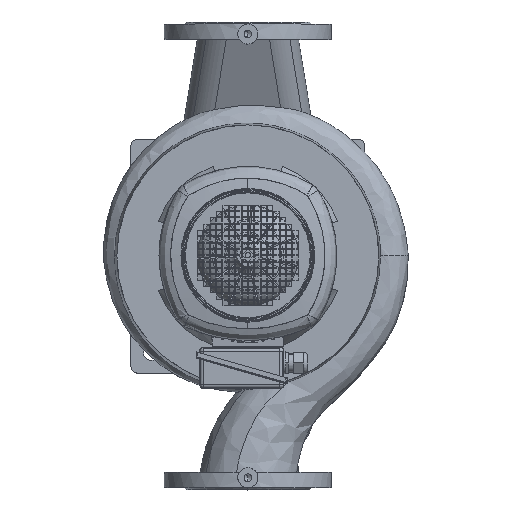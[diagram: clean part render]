
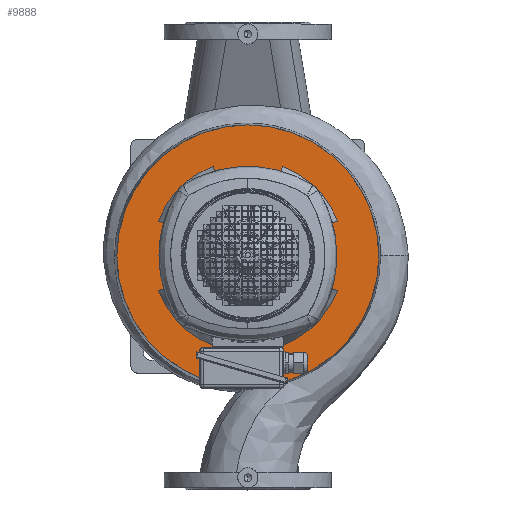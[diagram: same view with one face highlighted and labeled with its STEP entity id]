
A CAD part, top view. The second image highlights one B-rep face of the part: STEP entity #9888.
In plain terms, the highlighted planar face has unit normal (0, 0, 1) as drawn and (1, 0, 0) by its records, which use the part's own axes.
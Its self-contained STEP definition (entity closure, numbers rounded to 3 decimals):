
#9888=ADVANCED_FACE('',(#20159,#20160),#20161,.T.);
#9912=EDGE_CURVE('',#20200,#20201,#20202,.T.);
#9936=EDGE_CURVE('',#20244,#20245,#20246,.T.);
#9944=EDGE_CURVE('',#20254,#20257,#20258,.T.);
#9952=EDGE_CURVE('',#20266,#20269,#20270,.T.);
#9958=EDGE_CURVE('',#20273,#20245,#20278,.T.);
#9960=EDGE_CURVE('',#20280,#20257,#20281,.T.);
#9968=EDGE_CURVE('',#20292,#20288,#20293,.T.);
#9976=EDGE_CURVE('',#20303,#20299,#20304,.T.);
#9984=EDGE_CURVE('',#20310,#20313,#20314,.T.);
#9994=EDGE_CURVE('',#20324,#20254,#20327,.T.);
#10000=EDGE_CURVE('',#20332,#20266,#20335,.T.);
#10008=EDGE_CURVE('',#20343,#20338,#20346,.T.);
#10010=EDGE_CURVE('',#20269,#20288,#20348,.T.);
#10014=EDGE_CURVE('',#20338,#20299,#20352,.T.);
#10018=EDGE_CURVE('',#20313,#20244,#20356,.T.);
#10022=EDGE_CURVE('',#20280,#20332,#20360,.T.);
#10026=EDGE_CURVE('',#20292,#20343,#20364,.T.);
#10028=EDGE_CURVE('',#20273,#20324,#20366,.T.);
#10032=EDGE_CURVE('',#20201,#20200,#20370,.T.);
#10034=EDGE_CURVE('',#20303,#20310,#20372,.T.);
#20159=FACE_OUTER_BOUND('',#47073,.T.);
#20160=FACE_BOUND('',#47074,.T.);
#20161=PLANE('',#47075);
#20200=VERTEX_POINT('',#47116);
#20201=VERTEX_POINT('',#47117);
#20202=CIRCLE('',#47118,196.0);
#20244=VERTEX_POINT('',#47172);
#20245=VERTEX_POINT('',#47173);
#20246=CIRCLE('',#47174,132.799);
#20254=VERTEX_POINT('',#47194);
#20257=VERTEX_POINT('',#47207);
#20258=CIRCLE('',#47208,132.799);
#20266=VERTEX_POINT('',#47228);
#20269=VERTEX_POINT('',#47241);
#20270=CIRCLE('',#47242,132.799);
#20273=VERTEX_POINT('',#47246);
#20278=LINE('',#47263,#47264);
#20280=VERTEX_POINT('',#47267);
#20281=LINE('',#47268,#47269);
#20288=VERTEX_POINT('',#47289);
#20292=VERTEX_POINT('',#47303);
#20293=LINE('',#47304,#47305);
#20299=VERTEX_POINT('',#47324);
#20303=VERTEX_POINT('',#47338);
#20304=LINE('',#47339,#47340);
#20310=VERTEX_POINT('',#47359);
#20313=VERTEX_POINT('',#47372);
#20314=LINE('',#47373,#47374);
#20324=VERTEX_POINT('',#47399);
#20327=LINE('',#47412,#47413);
#20332=VERTEX_POINT('',#47421);
#20335=LINE('',#47434,#47435);
#20338=VERTEX_POINT('',#47439);
#20343=VERTEX_POINT('',#47456);
#20346=LINE('',#47469,#47470);
#20348=CIRCLE('',#47473,132.799);
#20352=CIRCLE('',#47479,132.799);
#20356=CIRCLE('',#47485,132.799);
#20360=CIRCLE('',#47491,144.0);
#20364=CIRCLE('',#47497,144.0);
#20366=CIRCLE('',#47500,144.0);
#20370=CIRCLE('',#47506,196.0);
#20372=CIRCLE('',#47509,144.0);
#47073=EDGE_LOOP('',(#73412,#73413));
#47074=EDGE_LOOP('',(#73414,#73415,#73416,#73417,#73418,#73419,#73420,#73421,#73422,#73423,#73424,#73425,#73426,#73427,#73428,#73429,#73430,#73431));
#47075=AXIS2_PLACEMENT_3D('',#73432,#73433,#73434);
#47116=CARTESIAN_POINT('',(20.0,196.0,0.0));
#47117=CARTESIAN_POINT('',(20.0,-196.0,0.));
#47118=AXIS2_PLACEMENT_3D('',#73534,#73535,#73536);
#47172=CARTESIAN_POINT('',(20.0,-132.799,0.));
#47173=CARTESIAN_POINT('',(20.0,-123.51,-48.794));
#47174=AXIS2_PLACEMENT_3D('',#73570,#73571,#73572);
#47194=CARTESIAN_POINT('',(20.0,-48.794,-123.51));
#47207=CARTESIAN_POINT('',(20.0,48.794,-123.51));
#47208=AXIS2_PLACEMENT_3D('',#73576,#73577,#73578);
#47228=CARTESIAN_POINT('',(20.0,123.51,-48.794));
#47241=CARTESIAN_POINT('',(20.0,132.799,0.));
#47242=AXIS2_PLACEMENT_3D('',#73582,#73583,#73584);
#47246=CARTESIAN_POINT('',(20.0,-134.395,-51.711));
#47263=CARTESIAN_POINT('',(20.0,-134.395,-51.711));
#47264=VECTOR('',#73586,1.0);
#47267=CARTESIAN_POINT('',(20.0,51.711,-134.395));
#47268=CARTESIAN_POINT('',(20.0,51.711,-134.395));
#47269=VECTOR('',#73587,1.0);
#47289=CARTESIAN_POINT('',(20.0,123.51,48.794));
#47303=CARTESIAN_POINT('',(20.0,134.395,51.711));
#47304=CARTESIAN_POINT('',(20.0,134.395,51.711));
#47305=VECTOR('',#73589,1.0);
#47324=CARTESIAN_POINT('',(20.0,-48.794,123.51));
#47338=CARTESIAN_POINT('',(20.0,-51.711,134.395));
#47339=CARTESIAN_POINT('',(20.0,-51.711,134.395));
#47340=VECTOR('',#73591,1.0);
#47359=CARTESIAN_POINT('',(20.0,-134.395,51.711));
#47372=CARTESIAN_POINT('',(20.0,-123.51,48.794));
#47373=CARTESIAN_POINT('',(20.0,-134.395,51.711));
#47374=VECTOR('',#73593,1.0);
#47399=CARTESIAN_POINT('',(20.0,-51.711,-134.395));
#47412=CARTESIAN_POINT('',(20.0,-51.711,-134.395));
#47413=VECTOR('',#73596,1.0);
#47421=CARTESIAN_POINT('',(20.0,134.395,-51.711));
#47434=CARTESIAN_POINT('',(20.0,134.395,-51.711));
#47435=VECTOR('',#73598,1.0);
#47439=CARTESIAN_POINT('',(20.0,48.794,123.51));
#47456=CARTESIAN_POINT('',(20.0,51.711,134.395));
#47469=CARTESIAN_POINT('',(20.0,51.711,134.395));
#47470=VECTOR('',#73600,1.0);
#47473=AXIS2_PLACEMENT_3D('',#73601,#73602,#73603);
#47479=AXIS2_PLACEMENT_3D('',#73607,#73608,#73609);
#47485=AXIS2_PLACEMENT_3D('',#73613,#73614,#73615);
#47491=AXIS2_PLACEMENT_3D('',#73619,#73620,#73621);
#47497=AXIS2_PLACEMENT_3D('',#73625,#73626,#73627);
#47500=AXIS2_PLACEMENT_3D('',#73628,#73629,#73630);
#47506=AXIS2_PLACEMENT_3D('',#73634,#73635,#73636);
#47509=AXIS2_PLACEMENT_3D('',#73637,#73638,#73639);
#73412=ORIENTED_EDGE('',*,*,#9912,.T.);
#73413=ORIENTED_EDGE('',*,*,#10032,.T.);
#73414=ORIENTED_EDGE('',*,*,#10034,.F.);
#73415=ORIENTED_EDGE('',*,*,#9976,.T.);
#73416=ORIENTED_EDGE('',*,*,#10014,.F.);
#73417=ORIENTED_EDGE('',*,*,#10008,.F.);
#73418=ORIENTED_EDGE('',*,*,#10026,.F.);
#73419=ORIENTED_EDGE('',*,*,#9968,.T.);
#73420=ORIENTED_EDGE('',*,*,#10010,.F.);
#73421=ORIENTED_EDGE('',*,*,#9952,.F.);
#73422=ORIENTED_EDGE('',*,*,#10000,.F.);
#73423=ORIENTED_EDGE('',*,*,#10022,.F.);
#73424=ORIENTED_EDGE('',*,*,#9960,.T.);
#73425=ORIENTED_EDGE('',*,*,#9944,.F.);
#73426=ORIENTED_EDGE('',*,*,#9994,.F.);
#73427=ORIENTED_EDGE('',*,*,#10028,.F.);
#73428=ORIENTED_EDGE('',*,*,#9958,.T.);
#73429=ORIENTED_EDGE('',*,*,#9936,.F.);
#73430=ORIENTED_EDGE('',*,*,#10018,.F.);
#73431=ORIENTED_EDGE('',*,*,#9984,.F.);
#73432=CARTESIAN_POINT('',(20.0,170.0,0.0));
#73433=DIRECTION('',(1.0,0.0,0.0));
#73434=DIRECTION('',(0.0,0.0,-1.0));
#73534=CARTESIAN_POINT('',(20.0,0.0,0.0));
#73535=DIRECTION('',(1.0,0.0,0.0));
#73536=DIRECTION('',(0.0,1.0,0.0));
#73570=CARTESIAN_POINT('',(20.0,0.0,0.0));
#73571=DIRECTION('',(1.0,0.0,0.0));
#73572=DIRECTION('',(0.0,1.0,0.0));
#73576=CARTESIAN_POINT('',(20.0,0.0,0.0));
#73577=DIRECTION('',(1.0,0.0,0.0));
#73578=DIRECTION('',(0.0,1.0,0.0));
#73582=CARTESIAN_POINT('',(20.0,0.0,0.0));
#73583=DIRECTION('',(1.0,0.0,0.0));
#73584=DIRECTION('',(0.0,1.0,0.0));
#73586=DIRECTION('',(0.,0.966,0.259));
#73587=DIRECTION('',(0.,-0.259,0.966));
#73589=DIRECTION('',(0.,-0.966,-0.259));
#73591=DIRECTION('',(0.,0.259,-0.966));
#73593=DIRECTION('',(0.,0.966,-0.259));
#73596=DIRECTION('',(0.,0.259,0.966));
#73598=DIRECTION('',(0.,-0.966,0.259));
#73600=DIRECTION('',(0.,-0.259,-0.966));
#73601=CARTESIAN_POINT('',(20.0,0.0,0.0));
#73602=DIRECTION('',(1.0,0.0,0.0));
#73603=DIRECTION('',(0.0,1.0,0.0));
#73607=CARTESIAN_POINT('',(20.0,0.0,0.0));
#73608=DIRECTION('',(1.0,0.0,0.0));
#73609=DIRECTION('',(0.0,1.0,0.0));
#73613=CARTESIAN_POINT('',(20.0,0.0,0.0));
#73614=DIRECTION('',(1.0,0.0,0.0));
#73615=DIRECTION('',(0.0,1.0,0.0));
#73619=CARTESIAN_POINT('',(20.0,0.0,0.0));
#73620=DIRECTION('',(1.0,0.0,0.0));
#73621=DIRECTION('',(0.0,1.0,0.0));
#73625=CARTESIAN_POINT('',(20.0,0.0,0.0));
#73626=DIRECTION('',(1.0,0.0,0.0));
#73627=DIRECTION('',(0.0,1.0,0.0));
#73628=CARTESIAN_POINT('',(20.0,0.0,0.0));
#73629=DIRECTION('',(1.0,0.0,0.0));
#73630=DIRECTION('',(0.0,1.0,0.0));
#73634=CARTESIAN_POINT('',(20.0,0.0,0.0));
#73635=DIRECTION('',(1.0,0.0,0.0));
#73636=DIRECTION('',(0.0,1.0,0.0));
#73637=CARTESIAN_POINT('',(20.0,0.0,0.0));
#73638=DIRECTION('',(1.0,0.0,0.0));
#73639=DIRECTION('',(0.0,1.0,0.0));
